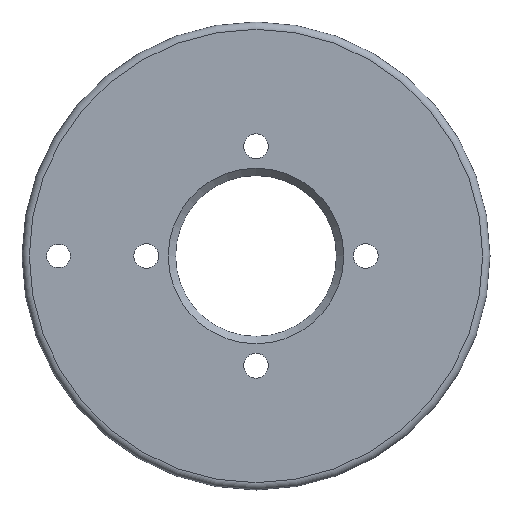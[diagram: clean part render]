
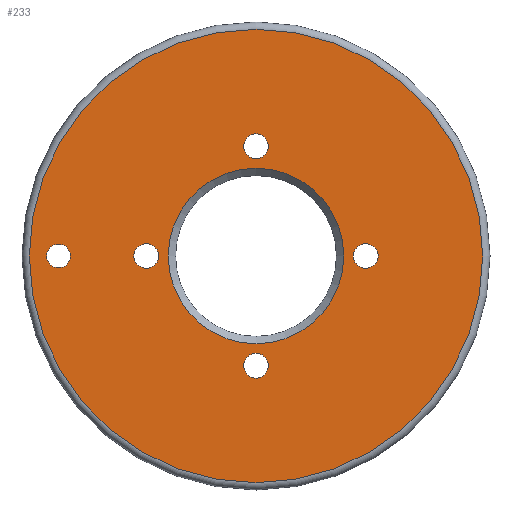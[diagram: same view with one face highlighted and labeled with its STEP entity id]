
A CAD part, left-side view. The second image highlights one B-rep face of the part: STEP entity #233.
In plain terms, the highlighted planar face has unit normal (-1, 0, 0).
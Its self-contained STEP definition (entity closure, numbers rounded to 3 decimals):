
#17=FACE_BOUND('',#54,.T.);
#18=FACE_BOUND('',#55,.T.);
#19=FACE_BOUND('',#56,.T.);
#20=FACE_BOUND('',#57,.T.);
#21=FACE_BOUND('',#58,.T.);
#22=FACE_BOUND('',#59,.T.);
#29=PLANE('',#272);
#40=FACE_OUTER_BOUND('',#53,.T.);
#53=EDGE_LOOP('',(#175));
#54=EDGE_LOOP('',(#176));
#55=EDGE_LOOP('',(#177));
#56=EDGE_LOOP('',(#178));
#57=EDGE_LOOP('',(#179));
#58=EDGE_LOOP('',(#180));
#59=EDGE_LOOP('',(#181));
#94=CIRCLE('',#268,12.);
#97=CIRCLE('',#273,31.);
#98=CIRCLE('',#274,1.621);
#99=CIRCLE('',#275,1.7);
#100=CIRCLE('',#276,1.7);
#101=CIRCLE('',#277,1.7);
#102=CIRCLE('',#278,1.7);
#116=VERTEX_POINT('',#385);
#119=VERTEX_POINT('',#395);
#120=VERTEX_POINT('',#397);
#121=VERTEX_POINT('',#399);
#122=VERTEX_POINT('',#401);
#123=VERTEX_POINT('',#403);
#124=VERTEX_POINT('',#405);
#136=EDGE_CURVE('',#116,#116,#94,.T.);
#141=EDGE_CURVE('',#119,#119,#97,.T.);
#142=EDGE_CURVE('',#120,#120,#98,.T.);
#143=EDGE_CURVE('',#121,#121,#99,.T.);
#144=EDGE_CURVE('',#122,#122,#100,.T.);
#145=EDGE_CURVE('',#123,#123,#101,.T.);
#146=EDGE_CURVE('',#124,#124,#102,.T.);
#175=ORIENTED_EDGE('',*,*,#141,.F.);
#176=ORIENTED_EDGE('',*,*,#142,.T.);
#177=ORIENTED_EDGE('',*,*,#143,.T.);
#178=ORIENTED_EDGE('',*,*,#144,.T.);
#179=ORIENTED_EDGE('',*,*,#145,.T.);
#180=ORIENTED_EDGE('',*,*,#146,.T.);
#181=ORIENTED_EDGE('',*,*,#136,.F.);
#233=ADVANCED_FACE('',(#40,#17,#18,#19,#20,#21,#22),#29,.F.);
#268=AXIS2_PLACEMENT_3D('',#386,#306,#307);
#272=AXIS2_PLACEMENT_3D('',#394,#316,#317);
#273=AXIS2_PLACEMENT_3D('',#396,#318,#319);
#274=AXIS2_PLACEMENT_3D('',#398,#320,#321);
#275=AXIS2_PLACEMENT_3D('',#400,#322,#323);
#276=AXIS2_PLACEMENT_3D('',#402,#324,#325);
#277=AXIS2_PLACEMENT_3D('',#404,#326,#327);
#278=AXIS2_PLACEMENT_3D('',#406,#328,#329);
#306=DIRECTION('center_axis',(-1.,0.,0.));
#307=DIRECTION('ref_axis',(0.,-1.,0.));
#316=DIRECTION('center_axis',(1.,0.,0.));
#317=DIRECTION('ref_axis',(0.,0.,-1.));
#318=DIRECTION('center_axis',(1.,0.,0.));
#319=DIRECTION('ref_axis',(0.,-1.,0.));
#320=DIRECTION('center_axis',(1.,0.,0.));
#321=DIRECTION('ref_axis',(0.,0.,-1.));
#322=DIRECTION('center_axis',(1.,0.,0.));
#323=DIRECTION('ref_axis',(0.,-1.,0.));
#324=DIRECTION('center_axis',(1.,0.,0.));
#325=DIRECTION('ref_axis',(0.,-1.,0.));
#326=DIRECTION('center_axis',(1.,0.,0.));
#327=DIRECTION('ref_axis',(0.,-1.,0.));
#328=DIRECTION('center_axis',(1.,0.,0.));
#329=DIRECTION('ref_axis',(0.,-1.,0.));
#385=CARTESIAN_POINT('',(-5.,12.,0.));
#386=CARTESIAN_POINT('Origin',(-5.,0.,0.));
#394=CARTESIAN_POINT('Origin',(-5.,0.,0.));
#395=CARTESIAN_POINT('',(-5.,0.,-31.));
#396=CARTESIAN_POINT('Origin',(-5.,0.,0.));
#397=CARTESIAN_POINT('',(-5.,27.,1.621));
#398=CARTESIAN_POINT('Origin',(-5.,27.,0.));
#399=CARTESIAN_POINT('',(-5.,1.7,-15.));
#400=CARTESIAN_POINT('Origin',(-5.,0.,-15.));
#401=CARTESIAN_POINT('',(-5.,-13.3,0.));
#402=CARTESIAN_POINT('Origin',(-5.,-15.,0.));
#403=CARTESIAN_POINT('',(-5.,1.7,15.));
#404=CARTESIAN_POINT('Origin',(-5.,0.,15.));
#405=CARTESIAN_POINT('',(-5.,16.7,0.));
#406=CARTESIAN_POINT('Origin',(-5.,15.,0.));
